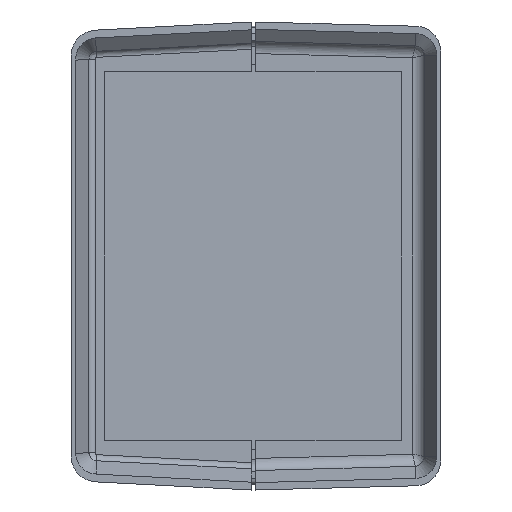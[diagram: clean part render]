
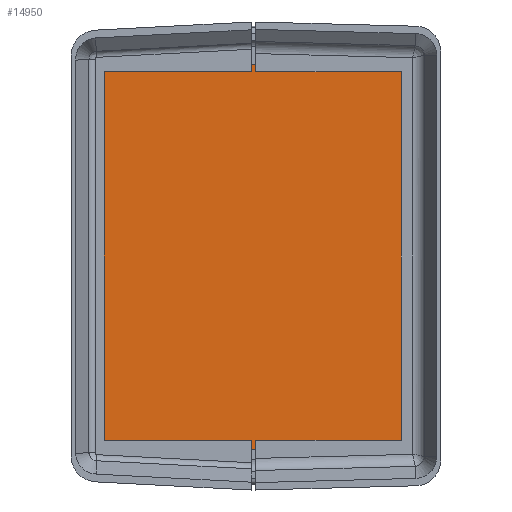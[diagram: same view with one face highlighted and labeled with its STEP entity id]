
A CAD part, left-side view. The second image highlights one B-rep face of the part: STEP entity #14950.
In plain terms, the highlighted planar face has unit normal (-1, 0, 0) as drawn and (0, 0, -1) by its records, which use the part's own axes.
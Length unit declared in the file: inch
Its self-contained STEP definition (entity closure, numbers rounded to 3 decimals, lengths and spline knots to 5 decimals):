
#22 = VECTOR ( 'NONE', #3629, 39.37008 ) ;
#39 = LINE ( 'NONE', #3664, #22 ) ;
#119 = VECTOR ( 'NONE', #3085, 39.37008 ) ;
#175 = VECTOR ( 'NONE', #9604, 39.37008 ) ;
#545 = VERTEX_POINT ( 'NONE', #6002 ) ;
#2053 = VERTEX_POINT ( 'NONE', #13671 ) ;
#2632 = FACE_OUTER_BOUND ( 'NONE', #4453, .T. ) ;
#2742 = LINE ( 'NONE', #2794, #17603 ) ;
#2794 = CARTESIAN_POINT ( 'NONE',  ( 1.165, 0.965, 0. ) ) ;
#2964 = DIRECTION ( 'NONE',  ( 0., 1., 0. ) ) ;
#3085 = DIRECTION ( 'NONE',  ( -1., 0., 0. ) ) ;
#3138 = CARTESIAN_POINT ( 'NONE',  ( -1.165, 0.965, 0. ) ) ;
#3629 = DIRECTION ( 'NONE',  ( 0., -1., 0. ) ) ;
#3664 = CARTESIAN_POINT ( 'NONE',  ( -1.165, 0.965, 0. ) ) ;
#4186 = ORIENTED_EDGE ( 'NONE', *, *, #10661, .F. ) ;
#4453 = EDGE_LOOP ( 'NONE', ( #4186, #14352, #12627, #9494 ) ) ;
#5301 = AXIS2_PLACEMENT_3D ( 'NONE', #12426, #9482, #9424 ) ;
#6002 = CARTESIAN_POINT ( 'NONE',  ( -1.165, 0.965, 0. ) ) ;
#6461 = CARTESIAN_POINT ( 'NONE',  ( 1.165, 0.965, 0. ) ) ;
#8234 = VERTEX_POINT ( 'NONE', #6461 ) ;
#9390 = CARTESIAN_POINT ( 'NONE',  ( -1.165, -0.965, 0. ) ) ;
#9424 = DIRECTION ( 'NONE',  ( 1., 0., 0. ) ) ;
#9482 = DIRECTION ( 'NONE',  ( 0., 0., 1. ) ) ;
#9494 = ORIENTED_EDGE ( 'NONE', *, *, #10631, .F. ) ;
#9604 = DIRECTION ( 'NONE',  ( 1., 0., 0. ) ) ;
#9717 = PLANE ( 'NONE',  #5301 ) ;
#10518 = EDGE_CURVE ( 'NONE', #2053, #14566, #10886, .T. ) ;
#10574 = EDGE_CURVE ( 'NONE', #545, #2053, #39, .T. ) ;
#10631 = EDGE_CURVE ( 'NONE', #8234, #545, #14528, .T. ) ;
#10661 = EDGE_CURVE ( 'NONE', #14566, #8234, #2742, .T. ) ;
#10886 = LINE ( 'NONE', #9390, #175 ) ;
#10997 = CARTESIAN_POINT ( 'NONE',  ( 1.165, -0.965, 0. ) ) ;
#12426 = CARTESIAN_POINT ( 'NONE',  ( 0., 0., 0. ) ) ;
#12627 = ORIENTED_EDGE ( 'NONE', *, *, #10574, .F. ) ;
#13671 = CARTESIAN_POINT ( 'NONE',  ( -1.165, -0.965, 0. ) ) ;
#14352 = ORIENTED_EDGE ( 'NONE', *, *, #10518, .F. ) ;
#14528 = LINE ( 'NONE', #3138, #119 ) ;
#14566 = VERTEX_POINT ( 'NONE', #10997 ) ;
#14950 = ADVANCED_FACE ( 'NONE', ( #2632 ), #9717, .F. ) ;
#17603 = VECTOR ( 'NONE', #2964, 39.37008 ) ;
